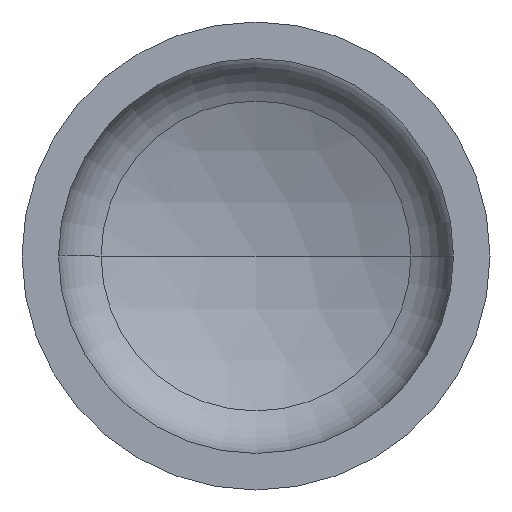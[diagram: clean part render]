
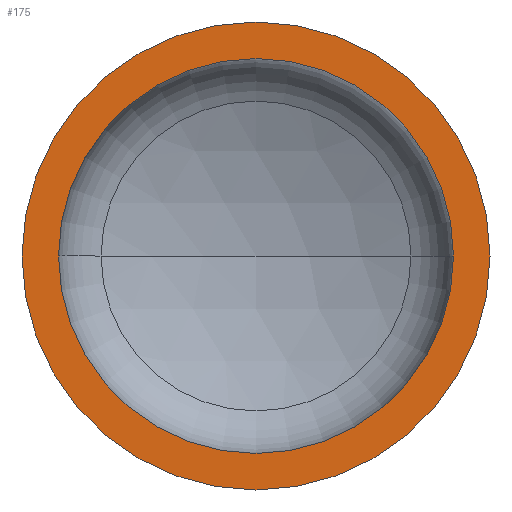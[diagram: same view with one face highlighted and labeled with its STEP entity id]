
A CAD part, front view. The second image highlights one B-rep face of the part: STEP entity #175.
In plain terms, the highlighted planar face has unit normal (0, -1, 0).
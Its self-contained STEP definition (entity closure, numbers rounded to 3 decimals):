
#11 = AXIS2_PLACEMENT_3D ( 'NONE', #272, #391, #393 ) ;
#12 = CIRCLE ( 'NONE', #11, 422. ) ;
#20 = EDGE_LOOP ( 'NONE', ( #31, #121 ) ) ;
#31 = ORIENTED_EDGE ( 'NONE', *, *, #101, .T. ) ;
#38 = AXIS2_PLACEMENT_3D ( 'NONE', #214, #235, #251 ) ;
#49 = VERTEX_POINT ( 'NONE', #244 ) ;
#62 = VERTEX_POINT ( 'NONE', #273 ) ;
#70 = EDGE_LOOP ( 'NONE', ( #125, #80 ) ) ;
#80 = ORIENTED_EDGE ( 'NONE', *, *, #342, .F. ) ;
#90 = AXIS2_PLACEMENT_3D ( 'NONE', #122, #354, #368 ) ;
#92 = AXIS2_PLACEMENT_3D ( 'NONE', #335, #331, #341 ) ;
#97 = AXIS2_PLACEMENT_3D ( 'NONE', #325, #321, #318 ) ;
#101 = EDGE_CURVE ( 'NONE', #62, #104, #140, .T. ) ;
#104 = VERTEX_POINT ( 'NONE', #231 ) ;
#113 = EDGE_CURVE ( 'NONE', #104, #62, #226, .T. ) ;
#114 = EDGE_CURVE ( 'NONE', #230, #49, #159, .T. ) ;
#121 = ORIENTED_EDGE ( 'NONE', *, *, #113, .T. ) ;
#122 = CARTESIAN_POINT ( 'NONE',  ( 0., 0., 0. ) ) ;
#125 = ORIENTED_EDGE ( 'NONE', *, *, #114, .F. ) ;
#133 = FACE_BOUND ( 'NONE', #70, .T. ) ;
#140 = CIRCLE ( 'NONE', #97, 500. ) ;
#159 = CIRCLE ( 'NONE', #90, 422. ) ;
#175 = ADVANCED_FACE ( 'NONE', ( #133, #204 ), #252, .F. ) ;
#188 = CARTESIAN_POINT ( 'NONE',  ( 422., 0., 0. ) ) ;
#204 = FACE_OUTER_BOUND ( 'NONE', #20, .T. ) ;
#214 = CARTESIAN_POINT ( 'NONE',  ( -500., 0., 0. ) ) ;
#226 = CIRCLE ( 'NONE', #92, 500. ) ;
#230 = VERTEX_POINT ( 'NONE', #188 ) ;
#231 = CARTESIAN_POINT ( 'NONE',  ( -500., 0., 0. ) ) ;
#235 = DIRECTION ( 'NONE',  ( 0., 1., 0. ) ) ;
#244 = CARTESIAN_POINT ( 'NONE',  ( -422., 0., 0. ) ) ;
#251 = DIRECTION ( 'NONE',  ( -1., 0., 0. ) ) ;
#252 = PLANE ( 'NONE',  #38 ) ;
#272 = CARTESIAN_POINT ( 'NONE',  ( 0., 0., 0. ) ) ;
#273 = CARTESIAN_POINT ( 'NONE',  ( 500., 0., 0. ) ) ;
#318 = DIRECTION ( 'NONE',  ( 1., 0., 0. ) ) ;
#321 = DIRECTION ( 'NONE',  ( 0., -1., 0. ) ) ;
#325 = CARTESIAN_POINT ( 'NONE',  ( 0., 0., 0. ) ) ;
#331 = DIRECTION ( 'NONE',  ( 0., -1., 0. ) ) ;
#335 = CARTESIAN_POINT ( 'NONE',  ( 0., 0., 0. ) ) ;
#341 = DIRECTION ( 'NONE',  ( 1., 0., 0. ) ) ;
#342 = EDGE_CURVE ( 'NONE', #49, #230, #12, .T. ) ;
#354 = DIRECTION ( 'NONE',  ( 0., -1., 0. ) ) ;
#368 = DIRECTION ( 'NONE',  ( 1., 0., 0. ) ) ;
#391 = DIRECTION ( 'NONE',  ( 0., -1., 0. ) ) ;
#393 = DIRECTION ( 'NONE',  ( 1., 0., 0. ) ) ;
